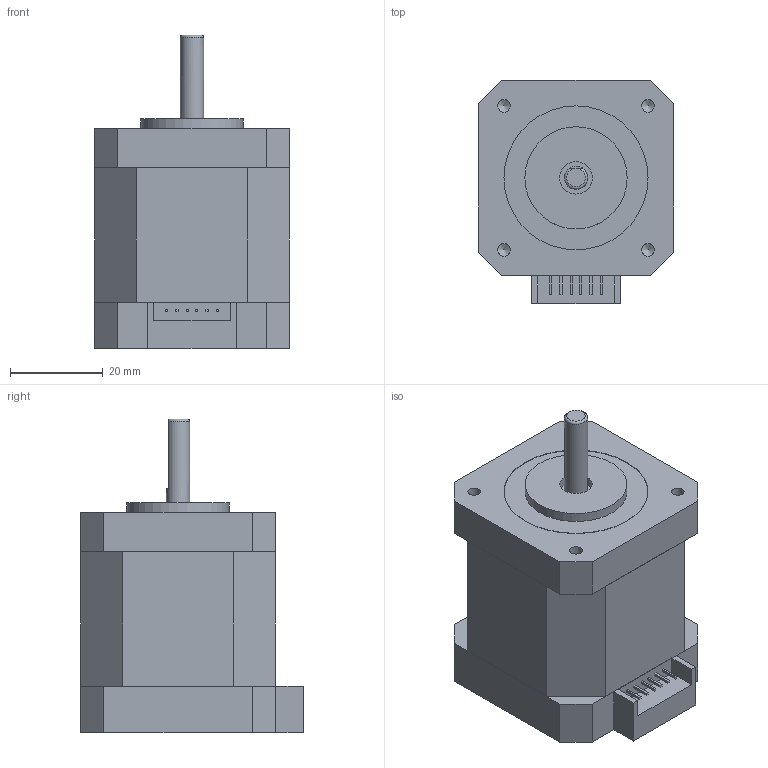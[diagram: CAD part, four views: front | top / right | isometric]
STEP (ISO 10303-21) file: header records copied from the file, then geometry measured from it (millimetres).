
FILE_DESCRIPTION(/* description */ (''),/* implementation_level */ '2;1');
FILE_NAME(/* name */ 'STP-43D3012.stp',/* time_stamp */ '2018-08-13T14:11:17+08:00',/* author */ (''),/* organization */ (''),/* preprocessor_version */ 'ST-DEVELOPER v11',/* originating_system */ 'SIEMENS UGS NX 6.0',/* authorisation */ '');
FILE_SCHEMA (('CONFIG_CONTROL_DESIGN'));
Length unit declared in the file: millimetre
Products named in the file (1): STP-43D3012
Bounding box: 42 x 48 x 67.5 mm (x, y, z)
Volume: 79492.6 mm3; surface area: 12075.1 mm2
Topology: 1 solids, 1 shells, 155 faces, 393 edges, 263 vertices
Faces by surface type: plane 131, cylinder 15, cone 8, torus 1
Full cylindrical faces by diameter (mm): 2.7 x4, 4.414 x4, 5 x2, 7 x2, 8.5 x1, 22 x1, 31 x1
Entity records: 4447 total; most frequent: CARTESIAN_POINT 769, ORIENTED_EDGE 706, DIRECTION 699, EDGE_CURVE 353, LINE 315, VECTOR 315, VERTEX_POINT 250, EDGE_LOOP 201
